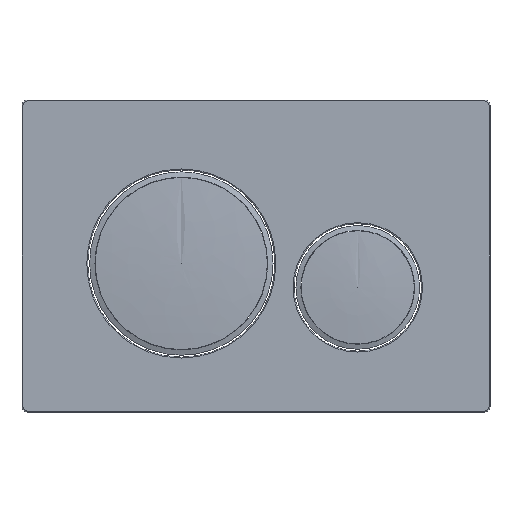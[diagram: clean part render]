
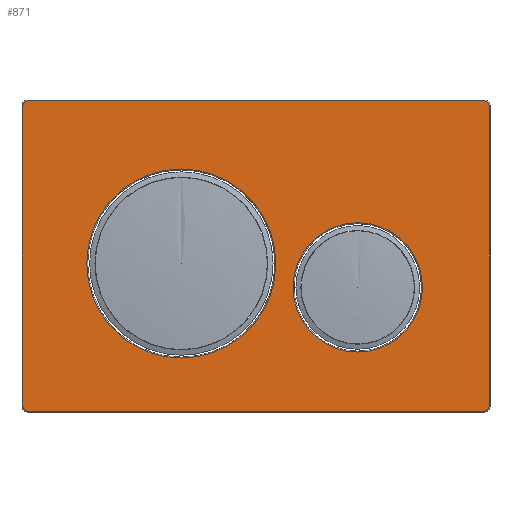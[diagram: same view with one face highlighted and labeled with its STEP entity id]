
A CAD part, front view. The second image highlights one B-rep face of the part: STEP entity #871.
In plain terms, the highlighted planar face has unit normal (0, -1, 0).
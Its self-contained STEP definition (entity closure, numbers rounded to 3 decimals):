
#13=LINE('',#1471,#33);
#14=LINE('',#1475,#34);
#15=LINE('',#1479,#35);
#16=LINE('',#1482,#36);
#33=VECTOR('',#1173,158.);
#34=VECTOR('',#1176,240.);
#35=VECTOR('',#1179,158.);
#36=VECTOR('',#1182,240.);
#80=PLANE('',#985);
#116=FACE_BOUND('',#255,.T.);
#117=FACE_BOUND('',#256,.T.);
#167=FACE_OUTER_BOUND('',#254,.T.);
#254=EDGE_LOOP('',(#610,#611,#612,#613,#614,#615,#616,#617));
#255=EDGE_LOOP('',(#618));
#256=EDGE_LOOP('',(#619));
#347=CIRCLE('',#984,34.);
#348=CIRCLE('',#986,2.5);
#349=CIRCLE('',#987,2.5);
#350=CIRCLE('',#988,2.5);
#351=CIRCLE('',#989,2.5);
#352=CIRCLE('',#990,49.7);
#418=VERTEX_POINT('',#1464);
#419=VERTEX_POINT('',#1467);
#420=VERTEX_POINT('',#1468);
#421=VERTEX_POINT('',#1470);
#422=VERTEX_POINT('',#1472);
#423=VERTEX_POINT('',#1474);
#424=VERTEX_POINT('',#1476);
#425=VERTEX_POINT('',#1478);
#426=VERTEX_POINT('',#1480);
#427=VERTEX_POINT('',#1483);
#494=EDGE_CURVE('',#418,#418,#347,.T.);
#495=EDGE_CURVE('',#419,#420,#348,.T.);
#496=EDGE_CURVE('',#421,#419,#13,.T.);
#497=EDGE_CURVE('',#422,#421,#349,.T.);
#498=EDGE_CURVE('',#423,#422,#14,.T.);
#499=EDGE_CURVE('',#424,#423,#350,.T.);
#500=EDGE_CURVE('',#425,#424,#15,.T.);
#501=EDGE_CURVE('',#426,#425,#351,.T.);
#502=EDGE_CURVE('',#420,#426,#16,.T.);
#503=EDGE_CURVE('',#427,#427,#352,.T.);
#610=ORIENTED_EDGE('',*,*,#495,.F.);
#611=ORIENTED_EDGE('',*,*,#496,.F.);
#612=ORIENTED_EDGE('',*,*,#497,.F.);
#613=ORIENTED_EDGE('',*,*,#498,.F.);
#614=ORIENTED_EDGE('',*,*,#499,.F.);
#615=ORIENTED_EDGE('',*,*,#500,.F.);
#616=ORIENTED_EDGE('',*,*,#501,.F.);
#617=ORIENTED_EDGE('',*,*,#502,.F.);
#618=ORIENTED_EDGE('',*,*,#494,.F.);
#619=ORIENTED_EDGE('',*,*,#503,.F.);
#871=ADVANCED_FACE('',(#167,#116,#117),#80,.T.);
#984=AXIS2_PLACEMENT_3D('',#1465,#1167,#1168);
#985=AXIS2_PLACEMENT_3D('',#1466,#1169,#1170);
#986=AXIS2_PLACEMENT_3D('',#1469,#1171,#1172);
#987=AXIS2_PLACEMENT_3D('',#1473,#1174,#1175);
#988=AXIS2_PLACEMENT_3D('',#1477,#1177,#1178);
#989=AXIS2_PLACEMENT_3D('',#1481,#1180,#1181);
#990=AXIS2_PLACEMENT_3D('',#1484,#1183,#1184);
#1167=DIRECTION('center_axis',(0.,-1.,0.));
#1168=DIRECTION('ref_axis',(0.,0.,1.));
#1169=DIRECTION('center_axis',(0.,-1.,0.));
#1170=DIRECTION('ref_axis',(0.,0.,-1.));
#1171=DIRECTION('center_axis',(0.,1.,0.));
#1172=DIRECTION('ref_axis',(0.707,0.,-0.707));
#1173=DIRECTION('',(0.,0.,-1.));
#1174=DIRECTION('center_axis',(0.,1.,0.));
#1175=DIRECTION('ref_axis',(0.707,0.,0.707));
#1176=DIRECTION('',(1.,0.,0.));
#1177=DIRECTION('center_axis',(0.,1.,0.));
#1178=DIRECTION('ref_axis',(-0.707,0.,0.707));
#1179=DIRECTION('',(0.,0.,1.));
#1180=DIRECTION('center_axis',(0.,1.,0.));
#1181=DIRECTION('ref_axis',(-0.707,0.,-0.707));
#1182=DIRECTION('',(-1.,0.,0.));
#1183=DIRECTION('center_axis',(0.,-1.,0.));
#1184=DIRECTION('ref_axis',(0.,0.,1.));
#1464=CARTESIAN_POINT('',(53.5,-12.,-50.5));
#1465=CARTESIAN_POINT('Origin',(53.5,-12.,-16.5));
#1466=CARTESIAN_POINT('Origin',(0.,-12.,0.));
#1467=CARTESIAN_POINT('',(122.5,-12.,-79.));
#1468=CARTESIAN_POINT('',(120.,-12.,-81.5));
#1469=CARTESIAN_POINT('Origin',(120.,-12.,-79.));
#1470=CARTESIAN_POINT('',(122.5,-12.,79.));
#1471=CARTESIAN_POINT('',(122.5,-12.,-41.));
#1472=CARTESIAN_POINT('',(120.,-12.,81.5));
#1473=CARTESIAN_POINT('Origin',(120.,-12.,79.));
#1474=CARTESIAN_POINT('',(-120.,-12.,81.5));
#1475=CARTESIAN_POINT('',(61.5,-12.,81.5));
#1476=CARTESIAN_POINT('',(-122.5,-12.,79.));
#1477=CARTESIAN_POINT('Origin',(-120.,-12.,79.));
#1478=CARTESIAN_POINT('',(-122.5,-12.,-79.));
#1479=CARTESIAN_POINT('',(-122.5,-12.,41.));
#1480=CARTESIAN_POINT('',(-120.,-12.,-81.5));
#1481=CARTESIAN_POINT('Origin',(-120.,-12.,-79.));
#1482=CARTESIAN_POINT('',(-61.5,-12.,-81.5));
#1483=CARTESIAN_POINT('',(-39.25,-12.,-53.65));
#1484=CARTESIAN_POINT('Origin',(-39.25,-12.,-3.95));
